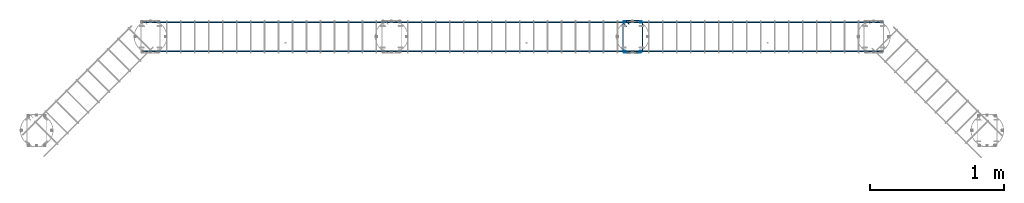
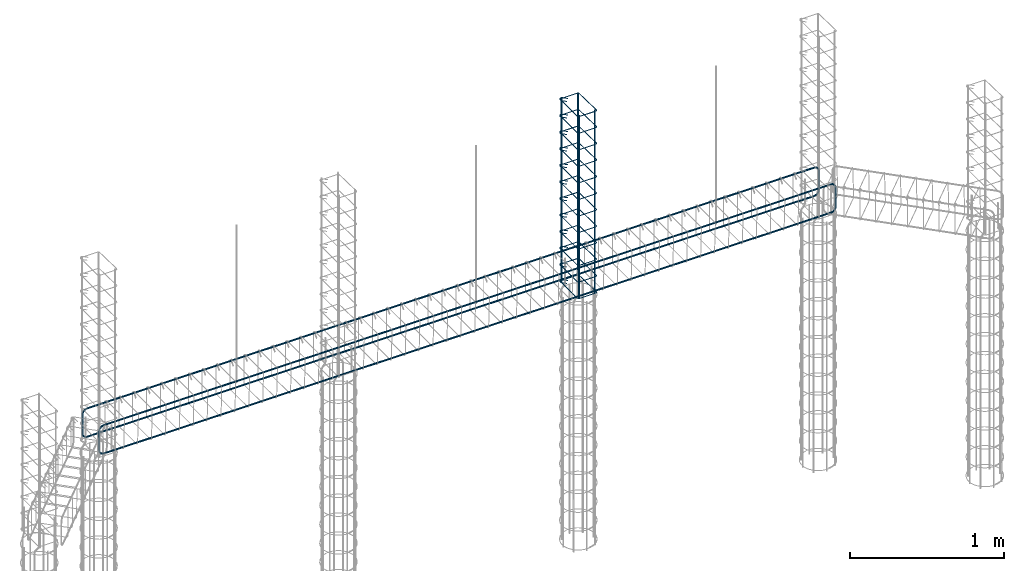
# One storey, part 9 of 14: 5 reinforcing bars.
"""IFC4 building model written with IfcOpenShell, lengths in centimetres."""

from ifc_helpers import new_model, entity, si_unit, converted_unit, derived_unit, direction, frame, origin, place, context, subcontext, project, spatial, type_object, element, save


model = new_model("IFC4")

# Units and contexts
model_context = context("Model", 3, precision=0.001, world=origin(), true_north=direction((6.123233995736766e-17, 1.0)))
body_context = subcontext(model_context, "Body", "Model", "MODEL_VIEW")
ifc_project = project(units=[si_unit("LENGTHUNIT", "METRE", prefix="CENTI"), si_unit("AREAUNIT", "SQUARE_METRE"), converted_unit("PLANEANGLEUNIT", "DEGREE", entity("IfcPlaneAngleMeasure", 0.017453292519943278), si_unit("PLANEANGLEUNIT", "RADIAN"), dimensions=[0, 0, 0, 0, 0, 0, 0]), si_unit("VOLUMEUNIT", "CUBIC_METRE"), derived_unit("THERMALTRANSMITTANCEUNIT", [(si_unit("MASSUNIT", "GRAM", prefix="KILO"), 1), (si_unit("THERMODYNAMICTEMPERATUREUNIT", "KELVIN"), -1), (si_unit("TIMEUNIT", "SECOND"), -3)])], contexts=[model_context])

# Site, building, storey
site_placement = place(None, origin())
site = spatial("IfcSite", under=ifc_project, at=site_placement, Name="Default", CompositionType="ELEMENT")
building_placement = place(site_placement, origin())
building = spatial("IfcBuilding", under=site, at=building_placement, Name="CONTENÇÃO DE ARQUIBANCADA - GINÁSIO PADRÃO", CompositionType="ELEMENT")
storey_placement = place(building_placement, frame((0.0, 0.0, -100.0)))
storey = spatial("IfcBuildingStorey", under=building, at=storey_placement, Name="Nível 3", CompositionType="ELEMENT", Elevation=-100.0)

# Reinforcing bars
reinforcing_bar_type_1 = type_object("IfcReinforcingBarType", Name="Barra do vergalhão:12.5 CA-50", PredefinedType="NOTDEFINED")
reinforcing_bar_1_placement = place(storey_placement, origin())
element("IfcReinforcingBar", 1, at=reinforcing_bar_1_placement, inside=storey, type_object=reinforcing_bar_type_1, Name="Barra do vergalhão:12.5 CA-50 : Forma 01", ObjectType="Barra do vergalhão:12.5 CA-50", context=body_context, shape_type="AdvancedSweptSolid", body=[
    entity("IfcSweptDiskSolid", entity("IfcIndexedPolyCurve", entity("IfcCartesianPointList3D", [[380.70031607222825, 259.99917522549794, 72.5], [380.70031607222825, 259.99917522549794, 217.5]]), None, False), 0.625, None, 0.0, 1.0),
    entity("IfcSweptDiskSolid", entity("IfcIndexedPolyCurve", entity("IfcCartesianPointList3D", [[368.21031607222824, 259.99917522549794, 72.5], [368.21031607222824, 259.99917522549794, 217.5]]), None, False), 0.625, None, 0.0, 1.0),
])
reinforcing_bar_2_placement = place(storey_placement, origin())
element("IfcReinforcingBar", 2, at=reinforcing_bar_2_placement, inside=storey, type_object=reinforcing_bar_type_1, Name="Barra do vergalhão:12.5 CA-50 : Forma 01", ObjectType="Barra do vergalhão:12.5 CA-50", context=body_context, shape_type="AdvancedSweptSolid", body=[
    entity("IfcSweptDiskSolid", entity("IfcIndexedPolyCurve", entity("IfcCartesianPointList3D", [[368.53031607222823, 237.82917522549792, 72.5], [368.53031607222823, 237.82917522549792, 217.5]]), None, False), 0.625, None, 0.0, 1.0),
    entity("IfcSweptDiskSolid", entity("IfcIndexedPolyCurve", entity("IfcCartesianPointList3D", [[380.3803160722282, 237.82917522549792, 72.5], [380.3803160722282, 237.82917522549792, 217.5]]), None, False), 0.625, None, 0.0, 1.0),
])
reinforcing_bar_3_placement = place(storey_placement, origin())
element("IfcReinforcingBar", 3, at=reinforcing_bar_3_placement, inside=storey, type_object=reinforcing_bar_type_1, Name="Barra do vergalhão:12.5 CA-50 : Forma 16", ObjectType="Barra do vergalhão:12.5 CA-50", context=body_context, shape_type="AdvancedSweptSolid", body=[
    entity("IfcSweptDiskSolid", entity("IfcIndexedPolyCurve", entity("IfcCartesianPointList3D", [[561.3332299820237, 259.99917522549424, 93.12999999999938], [561.3332299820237, 259.99917522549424, 77.50499999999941], [560.2348804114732, 259.99917522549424, 74.85334957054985], [557.5832299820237, 259.99917522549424, 73.7549999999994], [12.333229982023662, 259.99917522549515, 73.7549999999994], [9.681579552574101, 259.99917522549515, 74.85334957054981], [8.583229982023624, 259.99917522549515, 77.50499999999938], [8.583229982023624, 259.99917522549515, 93.12999999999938]]), [entity("IfcLineIndex", [1, 2]), entity("IfcArcIndex", [2, 3, 4]), entity("IfcLineIndex", [4, 5]), entity("IfcArcIndex", [5, 6, 7]), entity("IfcLineIndex", [7, 8])], False), 0.625, None, 0.0, 183.00000000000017),
    entity("IfcSweptDiskSolid", entity("IfcIndexedPolyCurve", entity("IfcCartesianPointList3D", [[561.3332299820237, 238.14917522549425, 93.12999999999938], [561.3332299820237, 238.14917522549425, 77.50499999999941], [560.2348804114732, 238.14917522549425, 74.85334957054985], [557.5832299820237, 238.14917522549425, 73.7549999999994], [12.333229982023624, 238.14917522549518, 73.7549999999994], [9.681579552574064, 238.14917522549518, 74.85334957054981], [8.583229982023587, 238.14917522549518, 77.50499999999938], [8.583229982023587, 238.14917522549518, 93.12999999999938]]), [entity("IfcLineIndex", [1, 2]), entity("IfcArcIndex", [2, 3, 4]), entity("IfcLineIndex", [4, 5]), entity("IfcArcIndex", [5, 6, 7]), entity("IfcLineIndex", [7, 8])], False), 0.625, None, 0.0, 183.00000000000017),
])
reinforcing_bar_4_placement = place(storey_placement, origin())
element("IfcReinforcingBar", 4, at=reinforcing_bar_4_placement, inside=storey, type_object=reinforcing_bar_type_1, Name="Barra do vergalhão:12.5 CA-50 : Forma 16", ObjectType="Barra do vergalhão:12.5 CA-50", context=body_context, shape_type="AdvancedSweptSolid", body=[
    entity("IfcSweptDiskSolid", entity("IfcIndexedPolyCurve", entity("IfcCartesianPointList3D", [[561.3303160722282, 259.9991752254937, 86.8699999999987], [561.3303160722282, 259.9991752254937, 92.49499999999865], [560.2319665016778, 259.9991752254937, 95.14665042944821], [557.5803160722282, 259.9991752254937, 96.24499999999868], [12.330316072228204, 259.9991752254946, 96.24499999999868], [9.678665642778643, 259.9991752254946, 95.14665042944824], [8.580316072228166, 259.9991752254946, 92.49499999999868], [8.580316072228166, 259.9991752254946, 86.8699999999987]]), [entity("IfcLineIndex", [1, 2]), entity("IfcArcIndex", [2, 3, 4]), entity("IfcLineIndex", [4, 5]), entity("IfcArcIndex", [5, 6, 7]), entity("IfcLineIndex", [7, 8])], False), 0.625, None, 0.0, 183.00000000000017),
    entity("IfcSweptDiskSolid", entity("IfcIndexedPolyCurve", entity("IfcCartesianPointList3D", [[561.3303160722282, 238.1491752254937, 86.8699999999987], [561.3303160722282, 238.1491752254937, 92.49499999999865], [560.2319665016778, 238.1491752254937, 95.14665042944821], [557.5803160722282, 238.1491752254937, 96.24499999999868], [12.330316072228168, 238.14917522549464, 96.24499999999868], [9.678665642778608, 238.14917522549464, 95.14665042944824], [8.58031607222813, 238.14917522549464, 92.49499999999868], [8.58031607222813, 238.14917522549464, 86.8699999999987]]), [entity("IfcLineIndex", [1, 2]), entity("IfcArcIndex", [2, 3, 4]), entity("IfcLineIndex", [4, 5]), entity("IfcArcIndex", [5, 6, 7]), entity("IfcLineIndex", [7, 8])], False), 0.625, None, 0.0, 183.00000000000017),
])
reinforcing_bar_type_2 = type_object("IfcReinforcingBarType", Name="Barra do vergalhão:6.3 CA-50", PredefinedType="NOTDEFINED")
reinforcing_bar_5_placement = place(storey_placement, origin())
element("IfcReinforcingBar", 5, at=reinforcing_bar_5_placement, inside=storey, type_object=reinforcing_bar_type_2, Name="Barra do vergalhão:6.3 CA-50 : Forma 22", ObjectType="Barra do vergalhão:6.3 CA-50", context=body_context, shape_type="AdvancedSweptSolid", body=[
    entity("IfcSweptDiskSolid", entity("IfcIndexedPolyCurve", entity("IfcCartesianPointList3D", [[371.971235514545, 258.3401648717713, 72.815], [369.42127061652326, 260.89012976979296, 72.815], [368.04813494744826, 261.16326343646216, 72.815], [367.2703160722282, 259.99917522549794, 72.815], [367.27031607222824, 238.14917522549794, 72.815], [367.6393615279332, 237.2582206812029, 72.815], [368.5303160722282, 236.88917522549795, 72.815], [380.3803160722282, 236.88917522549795, 72.815], [381.2712706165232, 237.25809742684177, 72.80546282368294], [381.6403160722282, 238.14875440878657, 72.78243804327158], [381.6403160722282, 259.99959604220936, 72.21756195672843], [381.2712706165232, 260.8902530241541, 72.19453717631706], [380.3803160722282, 261.259175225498, 72.185], [368.53031607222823, 261.2591752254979, 72.185], [367.366227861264, 260.48135635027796, 72.185], [367.63936152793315, 259.1082206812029, 72.185], [370.1893264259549, 256.5582557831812, 72.185]]), [entity("IfcLineIndex", [1, 2]), entity("IfcArcIndex", [2, 3, 4]), entity("IfcLineIndex", [4, 5]), entity("IfcArcIndex", [5, 6, 7]), entity("IfcLineIndex", [7, 8]), entity("IfcArcIndex", [8, 9, 10]), entity("IfcLineIndex", [10, 11]), entity("IfcArcIndex", [11, 12, 13]), entity("IfcLineIndex", [13, 14]), entity("IfcArcIndex", [14, 15, 16]), entity("IfcLineIndex", [16, 17])], False), 0.31499999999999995, None, 0.0, 546.0000000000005),
    entity("IfcSweptDiskSolid", entity("IfcIndexedPolyCurve", entity("IfcCartesianPointList3D", [[371.971235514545, 258.3401648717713, 85.93954545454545], [369.42127061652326, 260.89012976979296, 85.93954545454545], [368.04813494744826, 261.16326343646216, 85.93954545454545], [367.2703160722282, 259.99917522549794, 85.93954545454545], [367.27031607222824, 238.14917522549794, 85.93954545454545], [367.6393615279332, 237.2582206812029, 85.93954545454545], [368.5303160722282, 236.88917522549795, 85.93954545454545], [380.3803160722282, 236.88917522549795, 85.93954545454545], [381.2712706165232, 237.25809742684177, 85.93000827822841], [381.6403160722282, 238.14875440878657, 85.90698349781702], [381.6403160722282, 259.99959604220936, 85.34210741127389], [381.2712706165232, 260.8902530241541, 85.31908263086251], [380.3803160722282, 261.259175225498, 85.30954545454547], [368.53031607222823, 261.2591752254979, 85.30954545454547], [367.366227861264, 260.48135635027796, 85.30954545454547], [367.63936152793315, 259.1082206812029, 85.30954545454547], [370.1893264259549, 256.5582557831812, 85.30954545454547]]), [entity("IfcLineIndex", [1, 2]), entity("IfcArcIndex", [2, 3, 4]), entity("IfcLineIndex", [4, 5]), entity("IfcArcIndex", [5, 6, 7]), entity("IfcLineIndex", [7, 8]), entity("IfcArcIndex", [8, 9, 10]), entity("IfcLineIndex", [10, 11]), entity("IfcArcIndex", [11, 12, 13]), entity("IfcLineIndex", [13, 14]), entity("IfcArcIndex", [14, 15, 16]), entity("IfcLineIndex", [16, 17])], False), 0.31499999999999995, None, 0.0, 546.0000000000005),
    entity("IfcSweptDiskSolid", entity("IfcIndexedPolyCurve", entity("IfcCartesianPointList3D", [[371.971235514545, 258.3401648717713, 99.06409090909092], [369.42127061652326, 260.89012976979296, 99.06409090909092], [368.04813494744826, 261.16326343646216, 99.06409090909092], [367.2703160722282, 259.99917522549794, 99.06409090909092], [367.27031607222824, 238.14917522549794, 99.06409090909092], [367.6393615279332, 237.2582206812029, 99.06409090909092], [368.5303160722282, 236.88917522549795, 99.06409090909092], [380.3803160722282, 236.88917522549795, 99.06409090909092], [381.2712706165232, 237.25809742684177, 99.05455373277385], [381.6403160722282, 238.14875440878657, 99.03152895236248], [381.6403160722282, 259.99959604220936, 98.46665286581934], [381.2712706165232, 260.8902530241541, 98.44362808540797], [380.3803160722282, 261.259175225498, 98.43409090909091], [368.53031607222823, 261.2591752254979, 98.43409090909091], [367.366227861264, 260.48135635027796, 98.43409090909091], [367.63936152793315, 259.1082206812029, 98.43409090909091], [370.1893264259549, 256.5582557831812, 98.43409090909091]]), [entity("IfcLineIndex", [1, 2]), entity("IfcArcIndex", [2, 3, 4]), entity("IfcLineIndex", [4, 5]), entity("IfcArcIndex", [5, 6, 7]), entity("IfcLineIndex", [7, 8]), entity("IfcArcIndex", [8, 9, 10]), entity("IfcLineIndex", [10, 11]), entity("IfcArcIndex", [11, 12, 13]), entity("IfcLineIndex", [13, 14]), entity("IfcArcIndex", [14, 15, 16]), entity("IfcLineIndex", [16, 17])], False), 0.31499999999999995, None, 0.0, 546.0000000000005),
    entity("IfcSweptDiskSolid", entity("IfcIndexedPolyCurve", entity("IfcCartesianPointList3D", [[371.971235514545, 258.3401648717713, 112.18863636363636], [369.42127061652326, 260.89012976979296, 112.18863636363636], [368.04813494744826, 261.16326343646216, 112.18863636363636], [367.2703160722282, 259.99917522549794, 112.18863636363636], [367.27031607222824, 238.14917522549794, 112.18863636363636], [367.6393615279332, 237.2582206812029, 112.18863636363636], [368.5303160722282, 236.88917522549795, 112.18863636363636], [380.3803160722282, 236.88917522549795, 112.18863636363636], [381.2712706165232, 237.25809742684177, 112.17909918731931], [381.6403160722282, 238.14875440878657, 112.15607440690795], [381.6403160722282, 259.99959604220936, 111.5911983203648], [381.2712706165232, 260.8902530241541, 111.56817353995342], [380.3803160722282, 261.259175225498, 111.55863636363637], [368.53031607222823, 261.2591752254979, 111.55863636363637], [367.366227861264, 260.48135635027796, 111.55863636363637], [367.63936152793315, 259.1082206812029, 111.55863636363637], [370.1893264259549, 256.5582557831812, 111.55863636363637]]), [entity("IfcLineIndex", [1, 2]), entity("IfcArcIndex", [2, 3, 4]), entity("IfcLineIndex", [4, 5]), entity("IfcArcIndex", [5, 6, 7]), entity("IfcLineIndex", [7, 8]), entity("IfcArcIndex", [8, 9, 10]), entity("IfcLineIndex", [10, 11]), entity("IfcArcIndex", [11, 12, 13]), entity("IfcLineIndex", [13, 14]), entity("IfcArcIndex", [14, 15, 16]), entity("IfcLineIndex", [16, 17])], False), 0.31499999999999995, None, 0.0, 546.0000000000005),
    entity("IfcSweptDiskSolid", entity("IfcIndexedPolyCurve", entity("IfcCartesianPointList3D", [[371.971235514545, 258.3401648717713, 125.31318181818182], [369.42127061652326, 260.89012976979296, 125.31318181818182], [368.04813494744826, 261.16326343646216, 125.31318181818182], [367.2703160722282, 259.99917522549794, 125.31318181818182], [367.27031607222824, 238.14917522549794, 125.31318181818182], [367.6393615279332, 237.2582206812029, 125.31318181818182], [368.5303160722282, 236.88917522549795, 125.31318181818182], [380.3803160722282, 236.88917522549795, 125.31318181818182], [381.2712706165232, 237.25809742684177, 125.30364464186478], [381.6403160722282, 238.14875440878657, 125.28061986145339], [381.6403160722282, 259.99959604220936, 124.71574377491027], [381.2712706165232, 260.8902530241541, 124.69271899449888], [380.3803160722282, 261.259175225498, 124.68318181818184], [368.53031607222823, 261.2591752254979, 124.68318181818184], [367.366227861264, 260.48135635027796, 124.68318181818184], [367.63936152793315, 259.1082206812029, 124.68318181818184], [370.1893264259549, 256.5582557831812, 124.68318181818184]]), [entity("IfcLineIndex", [1, 2]), entity("IfcArcIndex", [2, 3, 4]), entity("IfcLineIndex", [4, 5]), entity("IfcArcIndex", [5, 6, 7]), entity("IfcLineIndex", [7, 8]), entity("IfcArcIndex", [8, 9, 10]), entity("IfcLineIndex", [10, 11]), entity("IfcArcIndex", [11, 12, 13]), entity("IfcLineIndex", [13, 14]), entity("IfcArcIndex", [14, 15, 16]), entity("IfcLineIndex", [16, 17])], False), 0.31499999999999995, None, 0.0, 546.0000000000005),
    entity("IfcSweptDiskSolid", entity("IfcIndexedPolyCurve", entity("IfcCartesianPointList3D", [[371.971235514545, 258.3401648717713, 138.43772727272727], [369.42127061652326, 260.89012976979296, 138.43772727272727], [368.04813494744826, 261.16326343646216, 138.43772727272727], [367.2703160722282, 259.99917522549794, 138.43772727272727], [367.27031607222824, 238.14917522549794, 138.43772727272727], [367.6393615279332, 237.2582206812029, 138.43772727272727], [368.5303160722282, 236.88917522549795, 138.43772727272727], [380.3803160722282, 236.88917522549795, 138.43772727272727], [381.2712706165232, 237.25809742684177, 138.42819009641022], [381.6403160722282, 238.14875440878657, 138.40516531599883], [381.6403160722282, 259.99959604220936, 137.84028922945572], [381.2712706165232, 260.8902530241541, 137.81726444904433], [380.3803160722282, 261.259175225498, 137.80772727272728], [368.53031607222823, 261.2591752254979, 137.80772727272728], [367.366227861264, 260.48135635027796, 137.80772727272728], [367.63936152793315, 259.1082206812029, 137.80772727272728], [370.1893264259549, 256.5582557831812, 137.80772727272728]]), [entity("IfcLineIndex", [1, 2]), entity("IfcArcIndex", [2, 3, 4]), entity("IfcLineIndex", [4, 5]), entity("IfcArcIndex", [5, 6, 7]), entity("IfcLineIndex", [7, 8]), entity("IfcArcIndex", [8, 9, 10]), entity("IfcLineIndex", [10, 11]), entity("IfcArcIndex", [11, 12, 13]), entity("IfcLineIndex", [13, 14]), entity("IfcArcIndex", [14, 15, 16]), entity("IfcLineIndex", [16, 17])], False), 0.31499999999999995, None, 0.0, 546.0000000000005),
    entity("IfcSweptDiskSolid", entity("IfcIndexedPolyCurve", entity("IfcCartesianPointList3D", [[371.971235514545, 258.3401648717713, 151.56227272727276], [369.42127061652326, 260.89012976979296, 151.56227272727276], [368.04813494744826, 261.16326343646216, 151.56227272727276], [367.2703160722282, 259.99917522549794, 151.56227272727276], [367.27031607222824, 238.14917522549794, 151.56227272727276], [367.6393615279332, 237.2582206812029, 151.56227272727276], [368.5303160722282, 236.88917522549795, 151.56227272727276], [380.3803160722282, 236.88917522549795, 151.56227272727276], [381.2712706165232, 237.25809742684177, 151.55273555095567], [381.6403160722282, 238.14875440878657, 151.5297107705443], [381.6403160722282, 259.99959604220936, 150.96483468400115], [381.2712706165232, 260.8902530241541, 150.94180990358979], [380.3803160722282, 261.259175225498, 150.93227272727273], [368.53031607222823, 261.2591752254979, 150.93227272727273], [367.366227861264, 260.48135635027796, 150.93227272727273], [367.63936152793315, 259.1082206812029, 150.93227272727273], [370.1893264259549, 256.5582557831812, 150.93227272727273]]), [entity("IfcLineIndex", [1, 2]), entity("IfcArcIndex", [2, 3, 4]), entity("IfcLineIndex", [4, 5]), entity("IfcArcIndex", [5, 6, 7]), entity("IfcLineIndex", [7, 8]), entity("IfcArcIndex", [8, 9, 10]), entity("IfcLineIndex", [10, 11]), entity("IfcArcIndex", [11, 12, 13]), entity("IfcLineIndex", [13, 14]), entity("IfcArcIndex", [14, 15, 16]), entity("IfcLineIndex", [16, 17])], False), 0.31499999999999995, None, 0.0, 546.0000000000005),
    entity("IfcSweptDiskSolid", entity("IfcIndexedPolyCurve", entity("IfcCartesianPointList3D", [[371.971235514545, 258.3401648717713, 164.68681818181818], [369.42127061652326, 260.89012976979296, 164.68681818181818], [368.04813494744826, 261.16326343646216, 164.68681818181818], [367.2703160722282, 259.99917522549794, 164.68681818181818], [367.27031607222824, 238.14917522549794, 164.68681818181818], [367.6393615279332, 237.2582206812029, 164.68681818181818], [368.5303160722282, 236.88917522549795, 164.68681818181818], [380.3803160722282, 236.88917522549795, 164.68681818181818], [381.2712706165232, 237.25809742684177, 164.67728100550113], [381.6403160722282, 238.14875440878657, 164.65425622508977], [381.6403160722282, 259.99959604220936, 164.0893801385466], [381.2712706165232, 260.8902530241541, 164.06635535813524], [380.3803160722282, 261.259175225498, 164.0568181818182], [368.53031607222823, 261.2591752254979, 164.0568181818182], [367.366227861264, 260.48135635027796, 164.0568181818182], [367.63936152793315, 259.1082206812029, 164.0568181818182], [370.1893264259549, 256.5582557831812, 164.0568181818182]]), [entity("IfcLineIndex", [1, 2]), entity("IfcArcIndex", [2, 3, 4]), entity("IfcLineIndex", [4, 5]), entity("IfcArcIndex", [5, 6, 7]), entity("IfcLineIndex", [7, 8]), entity("IfcArcIndex", [8, 9, 10]), entity("IfcLineIndex", [10, 11]), entity("IfcArcIndex", [11, 12, 13]), entity("IfcLineIndex", [13, 14]), entity("IfcArcIndex", [14, 15, 16]), entity("IfcLineIndex", [16, 17])], False), 0.31499999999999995, None, 0.0, 546.0000000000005),
    entity("IfcSweptDiskSolid", entity("IfcIndexedPolyCurve", entity("IfcCartesianPointList3D", [[371.971235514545, 258.3401648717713, 177.81136363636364], [369.42127061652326, 260.89012976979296, 177.81136363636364], [368.04813494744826, 261.16326343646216, 177.81136363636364], [367.2703160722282, 259.99917522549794, 177.81136363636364], [367.27031607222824, 238.14917522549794, 177.81136363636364], [367.6393615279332, 237.2582206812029, 177.81136363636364], [368.5303160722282, 236.88917522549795, 177.81136363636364], [380.3803160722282, 236.88917522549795, 177.81136363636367], [381.2712706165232, 237.25809742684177, 177.8018264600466], [381.6403160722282, 238.14875440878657, 177.77880167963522], [381.6403160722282, 259.99959604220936, 177.21392559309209], [381.2712706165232, 260.8902530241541, 177.1909008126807], [380.3803160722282, 261.259175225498, 177.18136363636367], [368.53031607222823, 261.2591752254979, 177.18136363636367], [367.366227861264, 260.48135635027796, 177.18136363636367], [367.63936152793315, 259.1082206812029, 177.18136363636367], [370.1893264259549, 256.5582557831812, 177.18136363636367]]), [entity("IfcLineIndex", [1, 2]), entity("IfcArcIndex", [2, 3, 4]), entity("IfcLineIndex", [4, 5]), entity("IfcArcIndex", [5, 6, 7]), entity("IfcLineIndex", [7, 8]), entity("IfcArcIndex", [8, 9, 10]), entity("IfcLineIndex", [10, 11]), entity("IfcArcIndex", [11, 12, 13]), entity("IfcLineIndex", [13, 14]), entity("IfcArcIndex", [14, 15, 16]), entity("IfcLineIndex", [16, 17])], False), 0.31499999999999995, None, 0.0, 546.0000000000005),
    entity("IfcSweptDiskSolid", entity("IfcIndexedPolyCurve", entity("IfcCartesianPointList3D", [[371.971235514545, 258.3401648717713, 190.93590909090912], [369.42127061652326, 260.89012976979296, 190.93590909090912], [368.04813494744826, 261.16326343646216, 190.93590909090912], [367.2703160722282, 259.99917522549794, 190.93590909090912], [367.27031607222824, 238.14917522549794, 190.93590909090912], [367.6393615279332, 237.2582206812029, 190.93590909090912], [368.5303160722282, 236.88917522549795, 190.93590909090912], [380.3803160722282, 236.88917522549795, 190.93590909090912], [381.2712706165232, 237.25809742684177, 190.92637191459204], [381.6403160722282, 238.14875440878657, 190.90334713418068], [381.6403160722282, 259.99959604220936, 190.33847104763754], [381.2712706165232, 260.8902530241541, 190.31544626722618], [380.3803160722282, 261.259175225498, 190.30590909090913], [368.53031607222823, 261.2591752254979, 190.30590909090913], [367.366227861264, 260.48135635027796, 190.30590909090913], [367.63936152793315, 259.1082206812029, 190.30590909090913], [370.1893264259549, 256.5582557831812, 190.30590909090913]]), [entity("IfcLineIndex", [1, 2]), entity("IfcArcIndex", [2, 3, 4]), entity("IfcLineIndex", [4, 5]), entity("IfcArcIndex", [5, 6, 7]), entity("IfcLineIndex", [7, 8]), entity("IfcArcIndex", [8, 9, 10]), entity("IfcLineIndex", [10, 11]), entity("IfcArcIndex", [11, 12, 13]), entity("IfcLineIndex", [13, 14]), entity("IfcArcIndex", [14, 15, 16]), entity("IfcLineIndex", [16, 17])], False), 0.31499999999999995, None, 0.0, 546.0000000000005),
    entity("IfcSweptDiskSolid", entity("IfcIndexedPolyCurve", entity("IfcCartesianPointList3D", [[371.971235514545, 258.3401648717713, 204.06045454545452], [369.42127061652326, 260.89012976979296, 204.06045454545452], [368.04813494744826, 261.16326343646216, 204.06045454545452], [367.2703160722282, 259.99917522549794, 204.06045454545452], [367.27031607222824, 238.14917522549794, 204.06045454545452], [367.6393615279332, 237.2582206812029, 204.06045454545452], [368.5303160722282, 236.88917522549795, 204.06045454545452], [380.3803160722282, 236.88917522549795, 204.06045454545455], [381.2712706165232, 237.25809742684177, 204.0509173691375], [381.6403160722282, 238.14875440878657, 204.02789258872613], [381.6403160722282, 259.99959604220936, 203.46301650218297], [381.2712706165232, 260.8902530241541, 203.43999172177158], [380.3803160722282, 261.259175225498, 203.43045454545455], [368.53031607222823, 261.2591752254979, 203.43045454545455], [367.366227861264, 260.48135635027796, 203.43045454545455], [367.63936152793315, 259.1082206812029, 203.43045454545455], [370.1893264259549, 256.5582557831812, 203.43045454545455]]), [entity("IfcLineIndex", [1, 2]), entity("IfcArcIndex", [2, 3, 4]), entity("IfcLineIndex", [4, 5]), entity("IfcArcIndex", [5, 6, 7]), entity("IfcLineIndex", [7, 8]), entity("IfcArcIndex", [8, 9, 10]), entity("IfcLineIndex", [10, 11]), entity("IfcArcIndex", [11, 12, 13]), entity("IfcLineIndex", [13, 14]), entity("IfcArcIndex", [14, 15, 16]), entity("IfcLineIndex", [16, 17])], False), 0.31499999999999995, None, 0.0, 546.0000000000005),
    entity("IfcSweptDiskSolid", entity("IfcIndexedPolyCurve", entity("IfcCartesianPointList3D", [[371.971235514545, 258.3401648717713, 217.185], [369.42127061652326, 260.89012976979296, 217.185], [368.04813494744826, 261.16326343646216, 217.185], [367.2703160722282, 259.99917522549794, 217.185], [367.27031607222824, 238.14917522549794, 217.185], [367.6393615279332, 237.2582206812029, 217.185], [368.5303160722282, 236.88917522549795, 217.185], [380.3803160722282, 236.88917522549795, 217.18500000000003], [381.2712706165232, 237.25809742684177, 217.17546282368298], [381.6403160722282, 238.14875440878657, 217.1524380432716], [381.6403160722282, 259.99959604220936, 216.58756195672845], [381.2712706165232, 260.8902530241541, 216.56453717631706], [380.3803160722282, 261.259175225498, 216.55500000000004], [368.53031607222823, 261.2591752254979, 216.55500000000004], [367.366227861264, 260.48135635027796, 216.55500000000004], [367.63936152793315, 259.1082206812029, 216.55500000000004], [370.1893264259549, 256.5582557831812, 216.55500000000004]]), [entity("IfcLineIndex", [1, 2]), entity("IfcArcIndex", [2, 3, 4]), entity("IfcLineIndex", [4, 5]), entity("IfcArcIndex", [5, 6, 7]), entity("IfcLineIndex", [7, 8]), entity("IfcArcIndex", [8, 9, 10]), entity("IfcLineIndex", [10, 11]), entity("IfcArcIndex", [11, 12, 13]), entity("IfcLineIndex", [13, 14]), entity("IfcArcIndex", [14, 15, 16]), entity("IfcLineIndex", [16, 17])], False), 0.31499999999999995, None, 0.0, 546.0000000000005),
])

save(model, "model.ifc")
